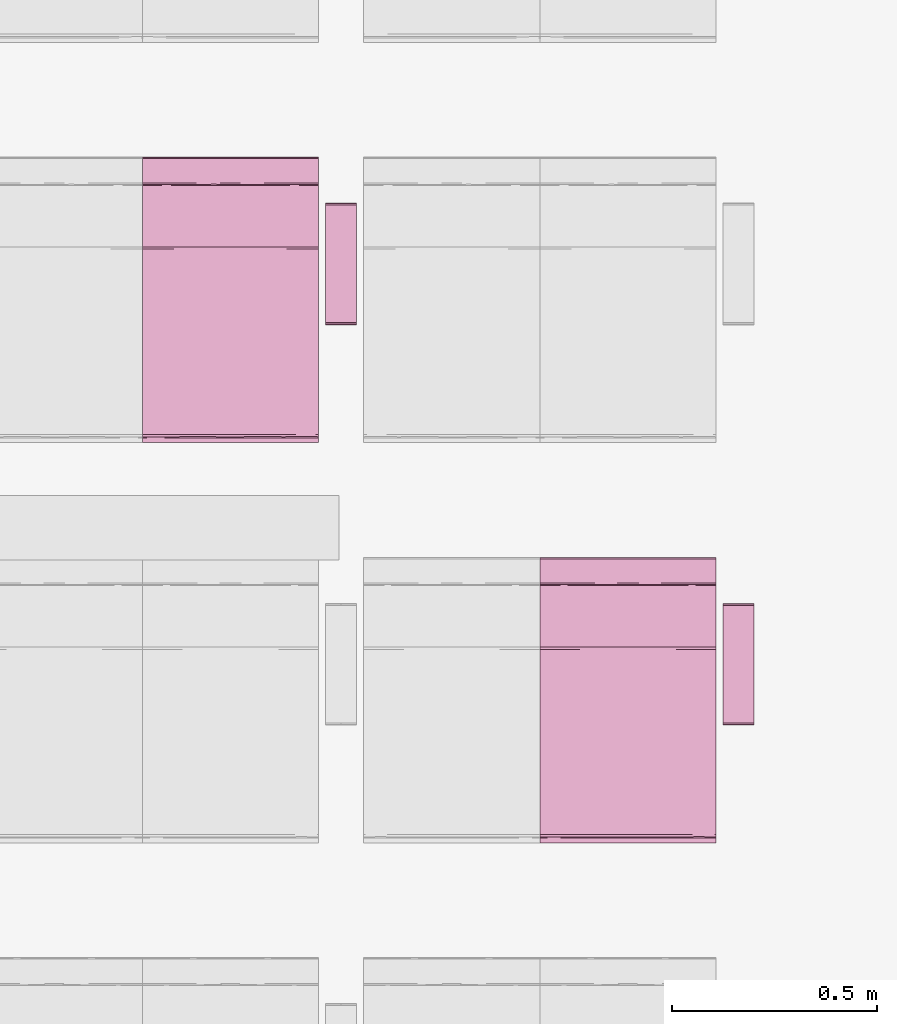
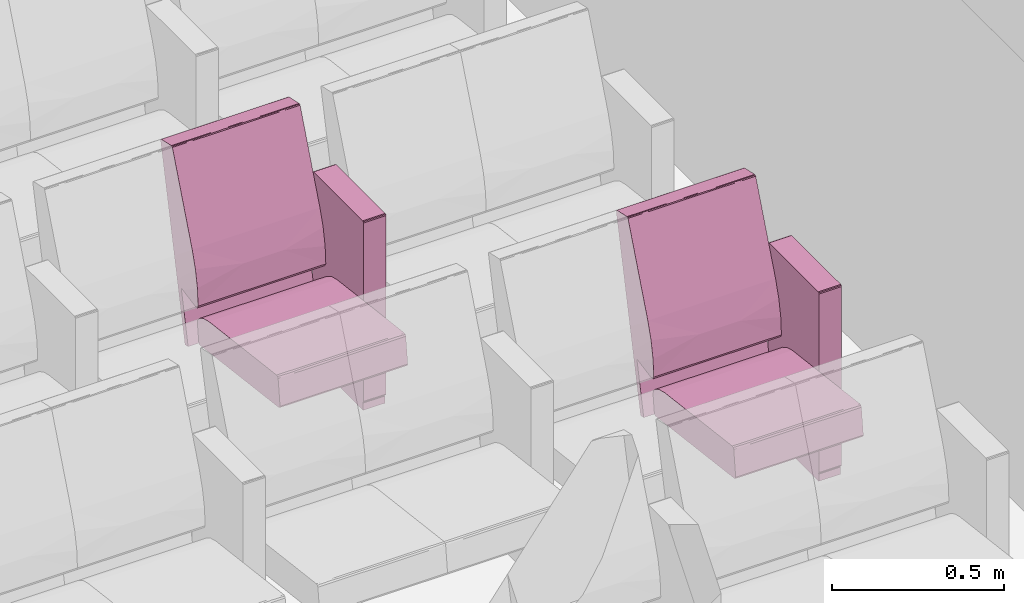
# One storey, part 135 of 155: 2 furnishings.
"""IFC2X3 building model written with IfcOpenShell, lengths in metres."""

from ifc_helpers import new_model, entity, si_unit, converted_unit, derived_unit, direction, frame, origin, place, context, subcontext, project, spatial, faceted_brep, source, transform, mapped, material, material_list, type_object, type_shapes, element, save


model = new_model("IFC2X3")

# Units and contexts
model_context = context("Model", 3, precision=1e-05, world=origin(), true_north=direction((6.12303176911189e-17, 1.0)))
body_context = subcontext(model_context, "Body", "Model", "MODEL_VIEW")
ifc_project = project(units=[si_unit("LENGTHUNIT", "METRE"), si_unit("AREAUNIT", "SQUARE_METRE"), si_unit("VOLUMEUNIT", "CUBIC_METRE"), converted_unit("PLANEANGLEUNIT", "DEGREE", entity("IfcRatioMeasure", 0.0174532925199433), si_unit("PLANEANGLEUNIT", "RADIAN"), dimensions=[0, 0, 0, 0, 0, 0, 0]), si_unit("MASSUNIT", "GRAM", prefix="KILO"), derived_unit("MASSDENSITYUNIT", [(si_unit("MASSUNIT", "GRAM", prefix="KILO"), 1), (si_unit("LENGTHUNIT", "METRE"), -3)]), si_unit("TIMEUNIT", "SECOND"), si_unit("FREQUENCYUNIT", "HERTZ"), si_unit("THERMODYNAMICTEMPERATUREUNIT", "DEGREE_CELSIUS"), derived_unit("THERMALTRANSMITTANCEUNIT", [(si_unit("MASSUNIT", "GRAM", prefix="KILO"), 1), (si_unit("THERMODYNAMICTEMPERATUREUNIT", "KELVIN"), -1), (si_unit("TIMEUNIT", "SECOND"), -3)]), derived_unit("VOLUMETRICFLOWRATEUNIT", [(si_unit("LENGTHUNIT", "METRE"), 3), (si_unit("TIMEUNIT", "SECOND"), -1)]), si_unit("ELECTRICCURRENTUNIT", "AMPERE"), si_unit("ELECTRICVOLTAGEUNIT", "VOLT"), si_unit("POWERUNIT", "WATT"), si_unit("FORCEUNIT", "NEWTON", prefix="KILO"), si_unit("ILLUMINANCEUNIT", "LUX"), si_unit("LUMINOUSFLUXUNIT", "LUMEN"), si_unit("LUMINOUSINTENSITYUNIT", "CANDELA"), derived_unit("USERDEFINED", [(si_unit("MASSUNIT", "GRAM", prefix="KILO"), -1), (si_unit("LENGTHUNIT", "METRE"), -2), (si_unit("TIMEUNIT", "SECOND"), 3), (si_unit("LUMINOUSFLUXUNIT", "LUMEN"), 1)]), derived_unit("LINEARVELOCITYUNIT", [(si_unit("LENGTHUNIT", "METRE"), 1), (si_unit("TIMEUNIT", "SECOND"), -1)]), si_unit("PRESSUREUNIT", "PASCAL"), derived_unit("USERDEFINED", [(si_unit("LENGTHUNIT", "METRE"), -2), (si_unit("MASSUNIT", "GRAM", prefix="KILO"), 1), (si_unit("TIMEUNIT", "SECOND"), -2)])], contexts=[model_context])

# Site, building, storey, space
site_placement = place(None, frame((26.9889013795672, -17.5624287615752, 0.0)))
site = spatial("IfcSite", under=ifc_project, at=site_placement, Name="Default", CompositionType="ELEMENT")
building_placement = place(site_placement, origin())
building = spatial("IfcBuilding", under=site, at=building_placement, Name="C. C. L. Monsenhor Antônio Sampaio", CompositionType="ELEMENT")
storey_placement = place(building_placement, frame((0.0, 0.0, 1.19999999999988)))
storey = spatial("IfcBuildingStorey", under=building, at=storey_placement, Name="Nível 1.2", CompositionType="ELEMENT", Elevation=1.19999999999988)
space_placement = place(storey_placement, origin())
space = spatial("IfcSpace", under=storey, at=space_placement, Name="94", CompositionType="ELEMENT", InteriorOrExteriorSpace="INTERNAL")

# Furnishings
ifc_material_1 = material(Name="V9 - V9 - Ecopelle_672_658")
ifc_material_2 = material(Name="V9 - V9 - RAL_9006_Grigio")
ifc_material_list_1 = material_list([ifc_material_1, ifc_material_2])
ifc_material_list_2 = material_list([ifc_material_1, ifc_material_2])
furniture_type = type_object("IfcFurnitureType", Name="Cadeira auditório", material=ifc_material_list_2)
shared_shape = source(origin(), body_context, "Body", "Brep", [
    faceted_brep([(0.405536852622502, -0.1075, 0.339809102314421), (0.410560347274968, -0.131924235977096, 0.34246450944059), (0.405536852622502, -0.156348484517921, 0.339809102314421), (0.41079981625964, -0.0179166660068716, 0.342749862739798), (0.410597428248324, -0.084060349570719, 0.342506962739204), (0.405536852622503, -0.0537499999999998, 0.339809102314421), (0.410248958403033, -0.173608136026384, 0.342130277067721), (0.405536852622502, -0.215, 0.339809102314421), (0.412515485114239, -0.143333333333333, 0.348529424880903), (0.412515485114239, -0.185674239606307, 0.348529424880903), (0.405536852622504, 0.1075, 0.33980910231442), (0.405536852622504, 0.156348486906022, 0.33980910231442), (0.410560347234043, 0.131924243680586, 0.342464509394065), (0.405536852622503, 0.0, 0.33980910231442), (0.411170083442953, 0.0341365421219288, 0.343251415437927), (0.41251548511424, 0.0, 0.348529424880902), (0.412515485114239, -0.0358333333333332, 0.348529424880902), (0.412515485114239, -0.0716666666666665, 0.348529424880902), (0.41251548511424, 0.143333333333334, 0.348529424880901), (0.41059742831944, 0.0840603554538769, 0.342506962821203), (0.405536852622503, 0.0537500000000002, 0.33980910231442), (0.410248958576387, 0.173608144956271, 0.342130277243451), (0.410799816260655, 0.215, 0.342749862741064), (0.412515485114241, 0.185674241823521, 0.348529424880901), (0.412515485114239, -0.215, 0.348529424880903), (0.410799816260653, -0.215, 0.342749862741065), (0.412515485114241, 0.215, 0.348529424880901), (0.41251548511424, 0.0716666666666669, 0.348529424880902), (0.405536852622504, 0.215, 0.33980910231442), (-0.0557900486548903, -0.215, 0.28268145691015), (-0.0557900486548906, -0.1881249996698, 0.282681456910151), (-0.0557900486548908, -0.161250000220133, 0.282681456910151), (-0.055790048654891, -0.134374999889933, 0.282681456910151), (-0.0557900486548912, -0.107499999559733, 0.282681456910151), (-0.0557900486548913, -0.0806250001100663, 0.282681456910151), (-0.0557900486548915, -0.0537499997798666, 0.282681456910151), (-0.0557900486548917, -0.0268749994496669, 0.282681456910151), (-0.0557900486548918, 0.0, 0.28268145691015), (-0.0557900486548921, 0.0268750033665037, 0.282681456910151), (-0.0557900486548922, 0.0537499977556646, 0.282681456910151), (-0.0557900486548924, 0.0806249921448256, 0.282681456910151), (-0.0557900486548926, 0.107499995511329, 0.282681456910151), (-0.0557900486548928, 0.138065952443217, 0.282681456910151), (-0.055790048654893, 0.168631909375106, 0.282681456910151), (-0.0557900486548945, 0.215, 0.28268145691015), (-0.0594787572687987, -0.0179017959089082, 0.283700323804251), (-0.0613666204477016, 0.0, 0.287029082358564), (-0.0594787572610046, 0.0152829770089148, 0.283700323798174), (-0.0594787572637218, -0.215, 0.283700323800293), (-0.0613666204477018, -0.215, 0.287029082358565), (-0.0613666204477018, -0.191815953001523, 0.287029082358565), (-0.0613666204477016, -0.030565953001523, 0.287029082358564), (-0.0593340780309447, -0.0671874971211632, 0.283591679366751), (-0.0593337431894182, 0.184174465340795, 0.283591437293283), (-0.0594787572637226, 0.215, 0.283700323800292), (-0.0593023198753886, 0.0940625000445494, 0.283568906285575), (-0.0613666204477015, 0.0611319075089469, 0.287029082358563), (-0.0613666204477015, 0.0916978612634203, 0.287029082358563), (-0.0613666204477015, 0.122263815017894, 0.287029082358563), (-0.0597338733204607, -0.147039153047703, 0.283913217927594), (-0.0613666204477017, -0.122263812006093, 0.287029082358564), (-0.059382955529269, -0.118123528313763, 0.28362747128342), (-0.0592501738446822, -0.180223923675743, 0.283532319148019), (-0.0613666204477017, -0.168631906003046, 0.287029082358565), (-0.0588783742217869, -0.0926899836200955, 0.283298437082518), (-0.0613666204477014, 0.168631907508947, 0.287029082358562), (-0.0613666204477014, 0.215, 0.287029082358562), (-0.0592576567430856, 0.123736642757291, 0.283537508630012), (-0.0594787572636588, 0.153348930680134, 0.283700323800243), (-0.0613666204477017, -0.0916978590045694, 0.287029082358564), (-0.0613666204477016, 0.0305659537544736, 0.287029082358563), (-0.059645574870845, 0.045848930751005, 0.283836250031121), (-0.0613666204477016, -0.0611319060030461, 0.287029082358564), (-0.0693403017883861, 0.143333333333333, 0.351419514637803), (-0.069340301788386, 0.215, 0.351419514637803), (-0.0693403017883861, -0.215, 0.351419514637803), (-0.0693403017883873, -0.143333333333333, 0.351419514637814), (-0.069340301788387, -0.0716666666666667, 0.351419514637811), (-0.0693403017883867, 0.0, 0.351419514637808), (-0.0693403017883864, 0.0716666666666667, 0.351419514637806), (-0.0653387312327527, -0.0126787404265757, 0.368680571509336), (-0.0645543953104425, -0.112272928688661, 0.369803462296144), (-0.0597085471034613, 0.0, 0.37476954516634), (-0.0655136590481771, 0.104400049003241, 0.368411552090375), (-0.0681665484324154, 0.0888707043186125, 0.36292533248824), (-0.0694879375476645, -0.0590582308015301, 0.356377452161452), (-0.0695056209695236, 0.125492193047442, 0.356093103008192), (-0.0597085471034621, 0.110316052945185, 0.374769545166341), (-0.0676206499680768, -0.215, 0.364371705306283), (-0.0672851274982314, -0.108066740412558, 0.365148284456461), (-0.0690003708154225, -0.132942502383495, 0.359900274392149), (-0.068624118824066, -0.215, 0.356813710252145), (-0.0686241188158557, 0.214999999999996, 0.356813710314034), (-0.0694502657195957, 0.0358333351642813, 0.356863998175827), (-0.0686999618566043, -0.035833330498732, 0.36116674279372), (-0.067620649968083, 0.214999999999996, 0.364371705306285), (-0.063664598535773, 0.214999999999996, 0.369570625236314), (-0.0597085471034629, 0.214999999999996, 0.374769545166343), (-0.0597085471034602, -0.110316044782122, 0.374769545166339), (-0.0636645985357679, -0.215, 0.36957062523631), (-0.0597085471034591, -0.215, 0.374769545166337), (-0.0018793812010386, -0.215, 0.398686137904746), (-0.0324117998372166, -0.0436847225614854, 0.39063968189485), (-0.0324117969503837, -0.215, 0.390639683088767), (-0.041847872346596, 0.0856576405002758, 0.386239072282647), (-0.00187938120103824, 0.102488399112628, 0.398686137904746), (-0.00187938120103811, 0.215, 0.398686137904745), (-0.0324117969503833, 0.215, 0.390639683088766), (-0.0219042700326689, 0.0570631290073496, 0.394412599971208), (-0.00187938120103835, 0.0, 0.398686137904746), (0.392202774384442, -0.215, 0.447486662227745), (0.392202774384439, -0.156349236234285, 0.447486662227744), (0.392202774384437, -0.107499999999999, 0.447486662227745), (0.392202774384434, -0.0537499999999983, 0.447486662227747), (0.392202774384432, 0.0, 0.447486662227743), (0.392202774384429, 0.0537500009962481, 0.44748666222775), (0.392202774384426, 0.107500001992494, 0.447486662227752), (0.392202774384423, 0.156349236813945, 0.447486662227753), (0.392202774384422, 0.215, 0.447486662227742), (0.397860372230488, 0.0827732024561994, 0.446039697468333), (0.401125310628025, 0.0976984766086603, 0.440530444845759), (0.398104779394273, 0.131924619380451, 0.445856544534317), (0.397373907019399, 0.173462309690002, 0.446363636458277), (0.401125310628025, 0.156349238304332, 0.440530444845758), (0.401125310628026, 0.215000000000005, 0.440530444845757), (0.398104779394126, 0.215000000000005, 0.445856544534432), (0.397860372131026, -0.0827731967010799, 0.446039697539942), (0.398104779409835, -0.131924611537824, 0.445856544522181), (0.398104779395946, -0.0268749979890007, 0.445856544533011), (0.398104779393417, 0.0237489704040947, 0.445856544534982), (0.401125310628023, -0.0488492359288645, 0.440530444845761), (0.401125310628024, 0.0488492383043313, 0.44053044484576), (0.398774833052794, -0.173462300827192, 0.445271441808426), (0.401125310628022, -0.0976984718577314, 0.440530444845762), (0.39810477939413, -0.215, 0.445856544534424), (0.401125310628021, -0.215, 0.440530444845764), (0.401125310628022, -0.156349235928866, 0.440530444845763), (0.401125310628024, 0.0, 0.44053044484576)], [[[0, 1, 2]], [[3, 4, 5]], [[2, 6, 7]], [[8, 9, 6]], [[10, 11, 12]], [[13, 3, 5]], [[3, 14, 15]], [[1, 4, 8]], [[6, 1, 8]], [[4, 3, 16]], [[16, 17, 8, 4]], [[12, 18, 19]], [[4, 1, 0]], [[20, 14, 13]], [[21, 22, 23]], [[15, 16, 3]], [[9, 24, 25]], [[26, 23, 22]], [[7, 6, 25]], [[12, 11, 21]], [[19, 14, 20]], [[4, 0, 5]], [[14, 27, 15]], [[13, 14, 3]], [[19, 18, 27]], [[19, 10, 12]], [[18, 21, 23]], [[10, 19, 20]], [[19, 27, 14]], [[2, 1, 6]], [[21, 11, 28]], [[25, 6, 9]], [[18, 12, 21]], [[22, 21, 28]], [[28, 11, 10, 20, 13, 5, 0, 2, 7, 29, 30, 31, 32, 33, 34, 35, 36, 37, 38, 39, 40, 41, 42, 43, 44]], [[45, 46, 47]], [[48, 49, 50]], [[51, 45, 52]], [[53, 54, 44]], [[55, 56, 57, 58]], [[59, 60, 61]], [[62, 63, 59]], [[34, 64, 52]], [[53, 65, 66]], [[41, 67, 42]], [[37, 36, 35, 45, 47, 38]], [[43, 42, 68]], [[29, 48, 30]], [[59, 31, 62]], [[62, 48, 50]], [[61, 69, 64]], [[65, 53, 68]], [[50, 63, 62]], [[62, 30, 48]], [[55, 58, 67]], [[32, 31, 59]], [[46, 70, 47]], [[65, 68, 58]], [[55, 40, 71]], [[70, 56, 71]], [[61, 33, 32]], [[59, 63, 60]], [[39, 38, 71, 40]], [[47, 71, 38]], [[51, 46, 45]], [[70, 71, 47]], [[71, 56, 55]], [[40, 55, 41]], [[67, 68, 42]], [[43, 68, 53]], [[43, 53, 44]], [[66, 54, 53]], [[68, 67, 58]], [[55, 67, 41]], [[72, 51, 52, 69]], [[62, 31, 30]], [[59, 61, 32]], [[35, 52, 45]], [[64, 34, 33]], [[34, 52, 35]], [[61, 60, 69]], [[52, 64, 69]], [[61, 64, 33]], [[73, 74, 66, 65, 58, 57, 56, 70, 46, 51, 72, 69, 60, 63, 50, 49, 75, 76, 77, 78, 79]], [[80, 81, 82]], [[83, 84, 80]], [[85, 78, 77, 76]], [[73, 79, 86]], [[80, 82, 83]], [[87, 83, 82]], [[88, 89, 90]], [[76, 75, 91]], [[92, 74, 73]], [[91, 90, 85]], [[80, 89, 81]], [[84, 93, 94]], [[84, 86, 93]], [[93, 78, 85]], [[73, 86, 92]], [[94, 93, 85]], [[95, 92, 84]], [[78, 93, 79]], [[80, 84, 94]], [[83, 96, 95]], [[94, 85, 90]], [[87, 97, 96]], [[98, 99, 100]], [[91, 85, 76]], [[94, 90, 89]], [[90, 91, 88]], [[89, 80, 94]], [[89, 99, 81]], [[89, 88, 99]], [[82, 81, 98]], [[81, 99, 98]], [[92, 86, 84]], [[93, 86, 79]], [[84, 83, 95]], [[96, 83, 87]], [[101, 102, 103]], [[104, 97, 87, 82]], [[105, 106, 107]], [[107, 108, 105]], [[109, 102, 101]], [[82, 102, 104]], [[102, 108, 104]], [[103, 102, 100]], [[97, 104, 107]], [[104, 108, 107]], [[102, 82, 98, 100]], [[105, 108, 109]], [[108, 102, 109]], [[109, 101, 110, 111, 112, 113, 114, 115, 116, 117, 118, 106, 105]], [[119, 120, 121]], [[122, 123, 124]], [[122, 125, 118]], [[126, 113, 112]], [[117, 121, 122]], [[121, 117, 116]], [[112, 111, 127]], [[113, 128, 129, 115, 114]], [[126, 130, 128]], [[129, 131, 119]], [[111, 132, 127]], [[132, 111, 110]], [[133, 126, 127]], [[123, 122, 121]], [[132, 134, 135]], [[127, 132, 136]], [[123, 121, 120]], [[127, 136, 133]], [[129, 128, 130, 137, 131]], [[112, 127, 126]], [[126, 133, 130]], [[119, 121, 116]], [[113, 126, 128]], [[119, 115, 129]], [[119, 116, 115]], [[120, 119, 131]], [[117, 122, 118]], [[124, 125, 122]], [[136, 132, 135]], [[110, 134, 132]], [[137, 130, 133, 136, 135, 24, 9, 8, 17, 16, 15, 27, 18, 23, 26, 124, 123, 120, 131]], [[44, 54, 66, 74, 92, 95, 96, 97, 107, 106, 118, 125, 124, 26, 22, 28]], [[75, 49, 48, 29, 7, 25, 24, 135, 134, 110, 101, 103, 100, 99, 88, 91]]]),
    faceted_brep([(0.119812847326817, 0.27, 0.674900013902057), (0.12334838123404, 0.259944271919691, 0.6734355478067), (0.123144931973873, 0.283972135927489, 0.673627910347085), (0.124812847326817, 0.27, 0.669900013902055), (0.119812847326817, 0.232, 0.674900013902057), (0.12334838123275, 0.232, 0.673435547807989), (0.124812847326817, 0.308, 0.669900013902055), (0.119812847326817, 0.308, 0.674900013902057), (0.124812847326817, 0.249888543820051, 0.669900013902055), (0.124812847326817, 0.232, 0.669900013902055), (0.12334838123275, 0.308, 0.673435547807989), (0.124812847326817, 0.232, 0.0349999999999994), (0.124812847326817, 0.27, 0.035), (0.124812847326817, 0.308, 0.035), (0.12334838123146, 0.25994427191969, 0.0314644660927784), (0.123540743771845, 0.283972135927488, 0.0316679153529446), (0.119812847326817, 0.27, 0.0300000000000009), (0.12334838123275, 0.232, 0.0314644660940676), (0.119812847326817, 0.308, 0.0300000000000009), (0.119812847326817, 0.249888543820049, 0.030000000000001), (0.119812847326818, 0.232, 0.030000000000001), (0.123348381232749, 0.308, 0.0314644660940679), (-0.167179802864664, 0.27, 0.0300000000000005), (-0.167179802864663, 0.308, 0.0300000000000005), (-0.167179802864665, 0.232, 0.0300000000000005), (-0.170715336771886, 0.25994427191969, 0.0314644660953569), (-0.17051188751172, 0.283972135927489, 0.0312721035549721), (-0.172179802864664, 0.27, 0.0350000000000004), (-0.170715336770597, 0.232, 0.0314644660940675), (-0.172179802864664, 0.308, 0.0350000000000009), (-0.172179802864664, 0.24988854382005, 0.0350000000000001), (-0.172179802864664, 0.232, 0.0349999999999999), (-0.170715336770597, 0.308, 0.0314644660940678), (-0.172179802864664, 0.308, 0.669900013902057), (-0.172179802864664, 0.232, 0.669900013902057), (-0.172179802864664, 0.27, 0.669900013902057), (-0.170715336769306, 0.259944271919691, 0.673435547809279), (-0.170907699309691, 0.283972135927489, 0.673232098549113), (-0.167179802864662, 0.27, 0.674900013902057), (-0.170715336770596, 0.232, 0.67343554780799), (-0.167179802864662, 0.308, 0.674900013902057), (-0.167179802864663, 0.249888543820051, 0.674900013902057), (-0.167179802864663, 0.232, 0.674900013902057), (-0.170715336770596, 0.308, 0.67343554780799)], [[[0, 1, 2]], [[3, 2, 1]], [[0, 4, 5, 1]], [[2, 3, 6]], [[0, 2, 7]], [[8, 3, 1, 5, 9]], [[7, 2, 10]], [[6, 10, 2]], [[9, 11, 12, 13, 6, 3, 8]], [[12, 14, 15]], [[16, 15, 14]], [[12, 11, 17, 14]], [[15, 16, 18]], [[12, 15, 13]], [[19, 16, 14, 17, 20]], [[13, 15, 21]], [[18, 21, 15]], [[22, 23, 18, 16, 19, 20, 24]], [[22, 25, 26]], [[27, 26, 25]], [[22, 24, 28, 25]], [[26, 27, 29]], [[22, 26, 23]], [[30, 27, 25, 28, 31]], [[23, 26, 32]], [[29, 32, 26]], [[33, 29, 27, 30, 31, 34, 35]], [[35, 36, 37]], [[38, 37, 36]], [[35, 34, 39, 36]], [[37, 38, 40]], [[35, 37, 33]], [[41, 38, 36, 39, 42]], [[33, 37, 43]], [[40, 43, 37]], [[0, 7, 40, 38, 41, 42, 4]], [[42, 39, 34, 31, 28, 24, 20, 17, 11, 9, 5, 4]], [[23, 32, 29, 33, 43, 40, 7, 10, 6, 13, 21, 18]]]),
    faceted_brep([(-0.0655618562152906, -0.215, 0.415143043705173), (-0.0744051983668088, -0.0524423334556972, 0.506888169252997), (-0.0695672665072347, -0.215, 0.476508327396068), (-0.0655618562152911, 0.0, 0.415143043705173), (-0.0744051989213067, 0.0780075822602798, 0.506888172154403), (-0.0655618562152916, 0.1075, 0.415143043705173), (-0.0655618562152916, 0.215, 0.415143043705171), (-0.0655618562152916, -0.1075, 0.415143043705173), (-0.0695672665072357, 0.215, 0.476508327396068), (-0.0811110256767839, 0.215, 0.536911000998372), (-0.0811110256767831, -0.215, 0.536911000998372), (-0.100016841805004, 0.0, 0.595428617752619), (-0.100016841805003, -0.215, 0.595428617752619), (-0.100016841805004, 0.215, 0.595428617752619), (-0.0792851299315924, -0.0716666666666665, 0.404772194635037), (-0.0792851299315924, 0.0, 0.404772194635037), (-0.0698317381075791, -0.0358333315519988, 0.406528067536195), (-0.0698317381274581, 0.215, 0.406528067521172), (-0.0792851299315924, 0.143333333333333, 0.404772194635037), (-0.0792851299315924, 0.215, 0.404772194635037), (-0.0698317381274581, -0.215, 0.406528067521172), (-0.0792851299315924, -0.215, 0.404772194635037), (-0.0792851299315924, -0.143333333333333, 0.404772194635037), (-0.0694171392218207, -0.140338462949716, 0.406857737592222), (-0.0708115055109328, 0.0356393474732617, 0.405868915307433), (-0.0703502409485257, 0.107500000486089, 0.406159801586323), (-0.0792851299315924, 0.0716666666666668, 0.404772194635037), (-0.163837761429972, 0.215, 0.420611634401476), (-0.163837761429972, -0.215, 0.420611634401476), (-0.123612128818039, -0.215, 0.235917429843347), (-0.123612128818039, 0.215, 0.235917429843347), (-0.142059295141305, -0.215, 0.231899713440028), (-0.142059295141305, 0.215, 0.231899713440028), (-0.235388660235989, -0.215, 0.652619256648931), (-0.235388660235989, 0.215, 0.652619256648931), (-0.28428001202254, 0.0, 0.873004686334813), (-0.284280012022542, 0.0268749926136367, 0.873004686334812), (-0.284280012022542, 0.0537499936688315, 0.873004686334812), (-0.284280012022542, 0.0806249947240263, 0.873004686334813), (-0.284280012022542, 0.107499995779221, 0.873004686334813), (-0.284280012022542, 0.134374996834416, 0.873004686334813), (-0.284280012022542, 0.161249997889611, 0.873004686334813), (-0.284280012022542, 0.191295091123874, 0.873004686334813), (-0.28428001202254, 0.215, 0.873004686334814), (-0.284280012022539, -0.215, 0.873004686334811), (-0.28428001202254, -0.191295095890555, 0.873004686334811), (-0.284280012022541, -0.161249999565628, 0.873004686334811), (-0.284280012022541, -0.134374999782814, 0.873004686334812), (-0.284280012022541, -0.1075, 0.873004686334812), (-0.284280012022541, -0.0806250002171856, 0.873004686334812), (-0.284280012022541, -0.0537500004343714, 0.873004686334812), (-0.284280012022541, -0.0268749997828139, 0.873004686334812), (-0.283504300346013, -0.0569644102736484, 0.877068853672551), (-0.283746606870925, -0.0872244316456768, 0.876674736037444), (-0.283641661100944, 0.12093750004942, 0.876855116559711), (-0.283567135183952, 0.15546176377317, 0.876973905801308), (-0.28330409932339, -0.185293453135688, 0.877344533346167), (-0.283567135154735, -0.155461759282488, 0.876973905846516), (-0.280514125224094, 0.0, 0.879190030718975), (-0.280514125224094, 0.0358333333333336, 0.879190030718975), (-0.283641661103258, 0.0136463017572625, 0.876855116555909), (-0.283641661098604, -0.0179166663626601, 0.876855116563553), (-0.280514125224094, -0.0358333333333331, 0.879190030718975), (-0.280514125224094, 0.1075, 0.879190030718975), (-0.280514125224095, 0.143333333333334, 0.879190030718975), (-0.283746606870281, 0.0872244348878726, 0.876674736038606), (-0.280514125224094, 0.071666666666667, 0.879190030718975), (-0.280514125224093, -0.1075, 0.879190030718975), (-0.280514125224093, -0.0716666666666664, 0.879190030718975), (-0.280514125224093, -0.143333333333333, 0.879190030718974), (-0.283641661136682, -0.120937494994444, 0.876855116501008), (-0.283641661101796, -0.215, 0.876855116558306), (-0.283641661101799, 0.215, 0.876855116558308), (-0.280514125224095, 0.167590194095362, 0.879190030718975), (-0.283304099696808, 0.18529345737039, 0.877344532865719), (-0.280514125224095, 0.215, 0.879190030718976), (-0.280514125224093, -0.167590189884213, 0.879190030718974), (-0.280514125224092, -0.215, 0.879190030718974), (-0.283504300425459, 0.0569644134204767, 0.8770688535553), (-0.221112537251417, -0.215, 0.892176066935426), (-0.221112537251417, -0.19181594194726, 0.892176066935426), (-0.221112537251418, -0.16124999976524, 0.892176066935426), (-0.221112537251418, -0.13437499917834, 0.892176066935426), (-0.221112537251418, -0.10749999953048, 0.892176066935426), (-0.221112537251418, -0.08062499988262, 0.892176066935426), (-0.221112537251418, -0.0537500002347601, 0.892176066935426), (-0.221112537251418, -0.0268750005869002, 0.892176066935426), (-0.221112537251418, 0.0, 0.892176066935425), (-0.221112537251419, 0.0268750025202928, 0.892176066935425), (-0.221112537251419, 0.053749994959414, 0.892176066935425), (-0.221112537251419, 0.0806249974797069, 0.892176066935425), (-0.221112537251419, 0.1075, 0.892176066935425), (-0.221112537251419, 0.134375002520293, 0.892176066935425), (-0.221112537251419, 0.161250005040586, 0.892176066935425), (-0.221112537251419, 0.191815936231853, 0.892176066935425), (-0.221112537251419, 0.215, 0.892176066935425), (-0.217722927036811, -0.0162353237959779, 0.891719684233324), (-0.215419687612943, -0.0358333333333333, 0.889191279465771), (-0.215419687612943, 0.0, 0.889191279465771), (-0.217722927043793, 0.0134375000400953, 0.891719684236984), (-0.217722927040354, 0.120937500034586, 0.89171968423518), (-0.217722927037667, 0.0912646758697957, 0.891719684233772), (-0.215419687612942, 0.0716666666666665, 0.88919127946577), (-0.215419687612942, 0.1075, 0.88919127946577), (-0.215419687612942, 0.143333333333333, 0.88919127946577), (-0.217722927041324, 0.215, 0.891719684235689), (-0.217722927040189, 0.182482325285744, 0.891719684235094), (-0.215419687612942, 0.168631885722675, 0.889191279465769), (-0.215419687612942, 0.191815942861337, 0.889191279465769), (-0.215419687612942, 0.215, 0.889191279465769), (-0.217722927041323, -0.215, 0.89171968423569), (-0.215419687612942, -0.215, 0.889191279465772), (-0.215419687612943, -0.191815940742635, 0.889191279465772), (-0.217722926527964, -0.190103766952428, 0.891719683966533), (-0.2179983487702, 0.039082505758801, 0.891853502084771), (-0.217816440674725, 0.0647800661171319, 0.891767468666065), (-0.217558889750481, 0.155982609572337, 0.891629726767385), (-0.217722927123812, -0.120937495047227, 0.891719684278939), (-0.217558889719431, -0.15598260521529, 0.891629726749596), (-0.215419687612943, -0.143333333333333, 0.889191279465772), (-0.215419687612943, -0.16863188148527, 0.889191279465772), (-0.215419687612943, -0.0716666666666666, 0.889191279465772), (-0.217816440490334, -0.0647800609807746, 0.891767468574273), (-0.217722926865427, -0.0912646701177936, 0.891719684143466), (-0.215419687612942, 0.0358333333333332, 0.889191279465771), (-0.215419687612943, -0.1075, 0.889191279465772), (-0.218257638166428, -0.0404491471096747, 0.891961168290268)], [[[0, 1, 2]], [[3, 4, 1]], [[4, 3, 5, 6]], [[1, 0, 7, 3]], [[8, 4, 6]], [[9, 4, 8]], [[1, 10, 2]], [[1, 11, 12]], [[9, 13, 4]], [[13, 11, 4]], [[10, 1, 12]], [[11, 1, 4]], [[14, 15, 16]], [[17, 18, 19]], [[20, 21, 22]], [[20, 23, 0]], [[3, 7, 16]], [[15, 24, 16]], [[24, 25, 5]], [[22, 23, 20]], [[7, 23, 16]], [[6, 5, 17]], [[16, 24, 3]], [[16, 23, 14]], [[23, 22, 14]], [[18, 25, 26]], [[18, 17, 25]], [[26, 24, 15]], [[7, 0, 23]], [[5, 25, 17]], [[25, 24, 26]], [[3, 24, 5]], [[27, 19, 18, 26, 15, 14, 22, 21, 28]], [[27, 28, 29, 30]], [[31, 32, 30, 29]], [[33, 34, 32, 31]], [[35, 36, 37, 38, 39, 40, 41, 42, 43, 34, 33, 44, 45, 46, 47, 48, 49, 50, 51]], [[52, 49, 53]], [[54, 55, 40]], [[46, 56, 57]], [[58, 59, 60, 61, 62]], [[54, 63, 64]], [[65, 66, 63]], [[67, 68, 53]], [[57, 69, 70]], [[45, 56, 46]], [[39, 54, 40]], [[45, 44, 71]], [[72, 43, 42]], [[35, 51, 61, 60, 36]], [[55, 73, 74]], [[39, 65, 54]], [[74, 73, 75]], [[67, 53, 70]], [[74, 42, 41]], [[64, 73, 55]], [[56, 76, 57]], [[74, 72, 42]], [[76, 56, 77]], [[56, 71, 77]], [[57, 76, 69]], [[48, 70, 53]], [[70, 48, 47]], [[60, 78, 36]], [[63, 54, 65]], [[71, 56, 45]], [[41, 55, 74]], [[72, 74, 75]], [[57, 70, 47]], [[47, 46, 57]], [[69, 67, 70]], [[50, 49, 52, 51]], [[52, 62, 61]], [[61, 51, 52]], [[55, 41, 40]], [[55, 54, 64]], [[66, 65, 78]], [[65, 38, 78]], [[52, 53, 68]], [[37, 36, 78, 38]], [[78, 59, 66]], [[59, 78, 60]], [[49, 48, 53]], [[65, 39, 38]], [[52, 68, 62]], [[79, 80, 81, 82, 83, 84, 85, 86, 87, 88, 89, 90, 91, 92, 93, 94, 95, 75, 73, 64, 63, 66, 59, 58, 62, 68, 67, 69, 76, 77]], [[96, 97, 98, 99]], [[100, 101, 102, 103, 104]], [[105, 106, 107, 108, 109]], [[110, 111, 112]], [[80, 110, 113]], [[89, 114, 115]], [[92, 116, 93]], [[94, 93, 106, 105, 95]], [[80, 79, 110]], [[92, 91, 90, 101, 100]], [[99, 88, 87, 86, 96]], [[104, 107, 116]], [[117, 83, 82]], [[117, 118, 119]], [[112, 120, 113]], [[118, 120, 119]], [[118, 81, 113]], [[116, 107, 106]], [[101, 90, 115]], [[121, 122, 123]], [[104, 116, 100]], [[110, 112, 113]], [[114, 99, 124]], [[92, 100, 116]], [[117, 125, 123]], [[82, 81, 118]], [[118, 117, 82]], [[83, 117, 123]], [[125, 117, 119]], [[102, 101, 115]], [[84, 83, 123]], [[123, 125, 121]], [[85, 84, 122]], [[89, 115, 90]], [[96, 86, 126]], [[124, 102, 115]], [[88, 99, 114]], [[99, 98, 124]], [[122, 121, 97]], [[126, 122, 97]], [[88, 114, 89]], [[115, 114, 124]], [[123, 122, 84]], [[126, 85, 122]], [[85, 126, 86]], [[96, 126, 97]], [[116, 106, 93]], [[80, 113, 81]], [[118, 113, 120]], [[12, 11, 13, 109, 108, 107, 104, 103, 102, 124, 98, 97, 121, 125, 119, 120, 112, 111]], [[30, 32, 34, 43, 72, 75, 95, 105, 109, 13, 9, 8, 6, 17, 19, 27]], [[77, 71, 44, 33, 31, 29, 28, 21, 20, 0, 2, 10, 12, 111, 110, 79]]]),
    faceted_brep([(0.120312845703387, 0.2335, 0.0), (0.120312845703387, 0.3065, 0.0), (0.120312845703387, 0.3065, 0.0260000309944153), (0.120312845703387, 0.27, 0.0260000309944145), (0.120312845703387, 0.249500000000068, 0.0260000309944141), (0.120312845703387, 0.2335, 0.0260000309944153), (-0.167687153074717, 0.2335, 0.0), (-0.167687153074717, 0.3065, 0.0), (-0.167687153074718, 0.3065, 0.0260000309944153), (-0.167687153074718, 0.2335, 0.0260000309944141), (-0.167687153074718, 0.27, 0.0260000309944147), (-0.163702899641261, 0.233500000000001, 0.0300000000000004), (-0.166521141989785, 0.257382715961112, 0.0288228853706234), (-0.166521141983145, 0.233500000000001, 0.0288228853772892), (-0.166521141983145, 0.3065, 0.0288228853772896), (-0.16652114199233, 0.279986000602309, 0.0288228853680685), (-0.163702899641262, 0.3065, 0.0300000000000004), (-0.163702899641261, 0.27, 0.0300000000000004), (0.116297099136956, 0.2335, 0.0300000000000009), (0.116297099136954, 0.270000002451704, 0.0300000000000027), (0.116297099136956, 0.3065, 0.0300000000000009), (0.119033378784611, 0.283124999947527, 0.0289323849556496), (0.119135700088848, 0.259750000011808, 0.0288340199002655), (0.1191357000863, 0.2335, 0.0288340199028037), (0.119135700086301, 0.3065, 0.0288340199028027)], [[[0, 1, 2, 3, 4, 5]], [[6, 7, 1, 0]], [[8, 7, 6, 9, 10]], [[11, 12, 13]], [[14, 15, 16]], [[17, 16, 15, 12, 11]], [[13, 12, 10, 9]], [[8, 15, 14]], [[12, 15, 8, 10]], [[16, 17, 11, 18, 19, 20]], [[3, 2, 21]], [[22, 19, 18, 23]], [[22, 23, 5, 4, 3]], [[20, 21, 24]], [[22, 3, 21]], [[19, 21, 20]], [[2, 24, 21]], [[19, 22, 21]], [[20, 24, 2, 1, 7, 8, 14, 16]], [[18, 11, 13, 9, 6, 0, 5, 23]]]),
])
type_shapes(furniture_type, [shared_shape])
furnishing_1_placement = place(space_placement, frame((-6.66594929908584, -13.3554126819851, 0.0), z_axis=(0.0, 0.0, 1.0), x_axis=(0.0, -1.0, 0.0)))
element("IfcFurnishingElement", 1, at=furnishing_1_placement, inside=space, type_object=furniture_type, material=ifc_material_list_1, Name="cadeira auditório pcd:Cadeira auditório", ObjectType="Cadeira auditório", context=body_context, shape_type="MappedRepresentation", body=[
    mapped(shared_shape, transform((0.0, 0.0, 0.0), scale=1.0)),
])
ifc_material_list_3 = material_list([ifc_material_1, ifc_material_2])
furnishing_2_placement = place(space_placement, frame((-7.63594929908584, -12.3788058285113, 0.0), z_axis=(0.0, 0.0, 1.0), x_axis=(0.0, -1.0, 0.0)))
element("IfcFurnishingElement", 2, at=furnishing_2_placement, inside=space, type_object=furniture_type, material=ifc_material_list_3, Name="cadeira auditório pcd:Cadeira auditório", ObjectType="Cadeira auditório", context=body_context, shape_type="MappedRepresentation", body=[
    mapped(shared_shape, transform((0.0, 0.0, 0.0), scale=1.0)),
])

save(model, "model.ifc")
